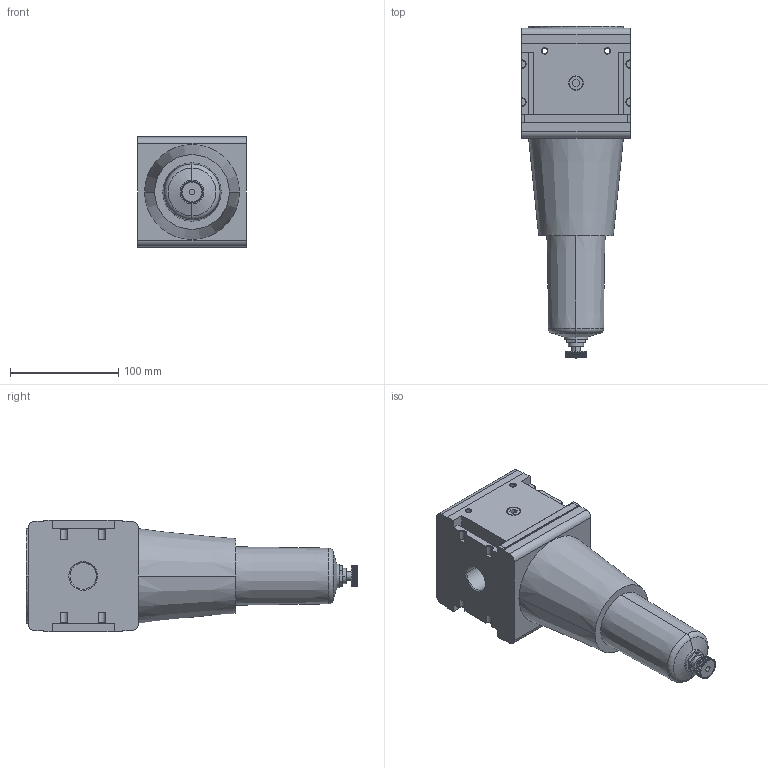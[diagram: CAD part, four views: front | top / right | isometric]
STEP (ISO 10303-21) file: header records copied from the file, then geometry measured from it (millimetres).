
FILE_DESCRIPTION((''),'2;1');
FILE_NAME('0821303801_ASM','2019-11-29T',('GIO1HC'),(''),'CREO PARAMETRIC BY PTC INC, 2016260','CREO PARAMETRIC BY PTC INC, 2016260','');
FILE_SCHEMA(('CONFIG_CONTROL_DESIGN'));
Length unit declared in the file: millimetre
Products named in the file (3): 0821303801-A; NL6-RESERVOIR-PC-SEMI; 0821303801_ASM
Assembly tree (2 placements, depth 2):
  0821303801_ASM
    0821303801-A
    NL6-RESERVOIR-PC-SEMI
Bounding box: 100 x 306.5 x 103.4 mm (x, y, z)
Volume: 1633446 mm3; surface area: 112649.3 mm2
Topology: 2 solids, 2 shells, 309 faces, 848 edges, 558 vertices
Faces by surface type: plane 161, cylinder 116, cone 26, torus 6
Entity records: 10003 total; most frequent: DIRECTION 1796, CARTESIAN_POINT 1720, ORIENTED_EDGE 1696, EDGE_CURVE 848, AXIS2_PLACEMENT_3D 634, VERTEX_POINT 558, VECTOR 528, LINE 528
